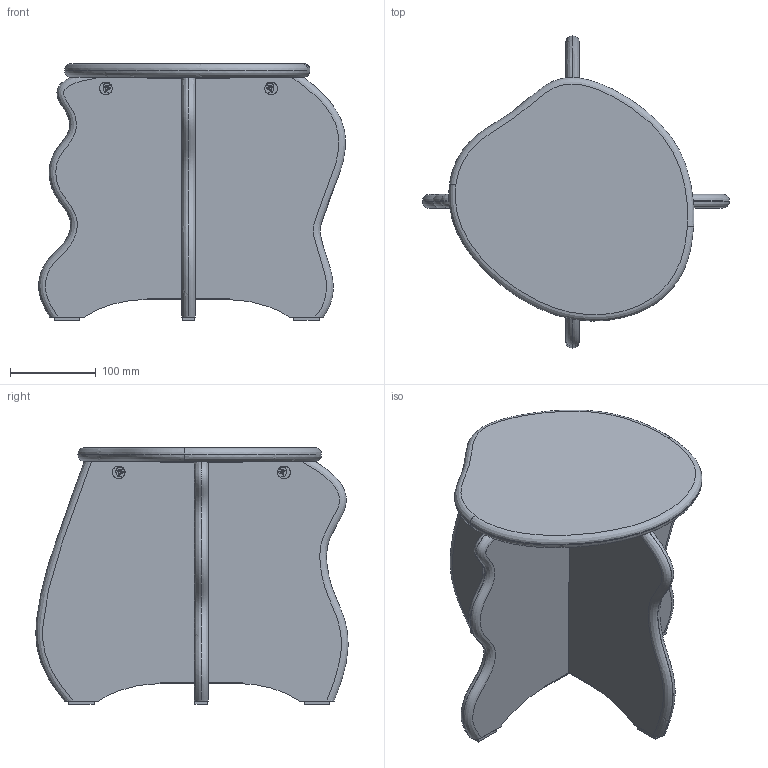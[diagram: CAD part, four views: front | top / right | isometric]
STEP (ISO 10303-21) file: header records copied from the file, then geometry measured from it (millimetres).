
FILE_DESCRIPTION(/* description */ (''),/* implementation_level */ '2;1');
FILE_NAME(/* name */ 'Slope Stool_3D',/* time_stamp */ '2023-07-20T14:21:37+02:00',/* author */ (''),/* organization */ (''),/* preprocessor_version */ 'ST-DEVELOPER v16.5',/* originating_system */ 'Rhino 7.31',/* authorisation */ '');
FILE_SCHEMA (('CONFIG_CONTROL_DESIGN'));
Products named in the file (1): Document
Bounding box: 357.42 x 363.61 x 299 mm (x, y, z)
Volume: 3642113.4 mm3; surface area: 545309.4 mm2
Topology: 29 solids, 29 shells, 2159 faces, 6145 edges, 4048 vertices
Faces by surface type: cylinder 884, bspline 646, plane 629
Entity records: 84382 total; most frequent: CARTESIAN_POINT 46358, ORIENTED_EDGE 12258, EDGE_CURVE 6129, B_SPLINE_CURVE_WITH_KNOTS 4240, VERTEX_POINT 4048, EDGE_LOOP 2227, ADVANCED_FACE 2159, FACE_OUTER_BOUND 2159
